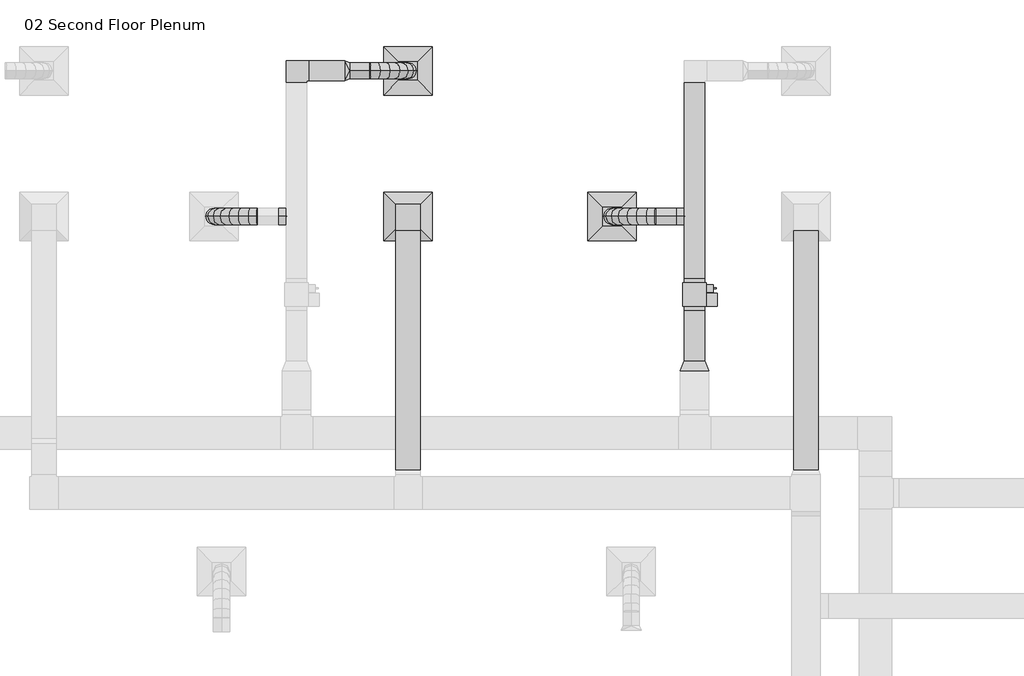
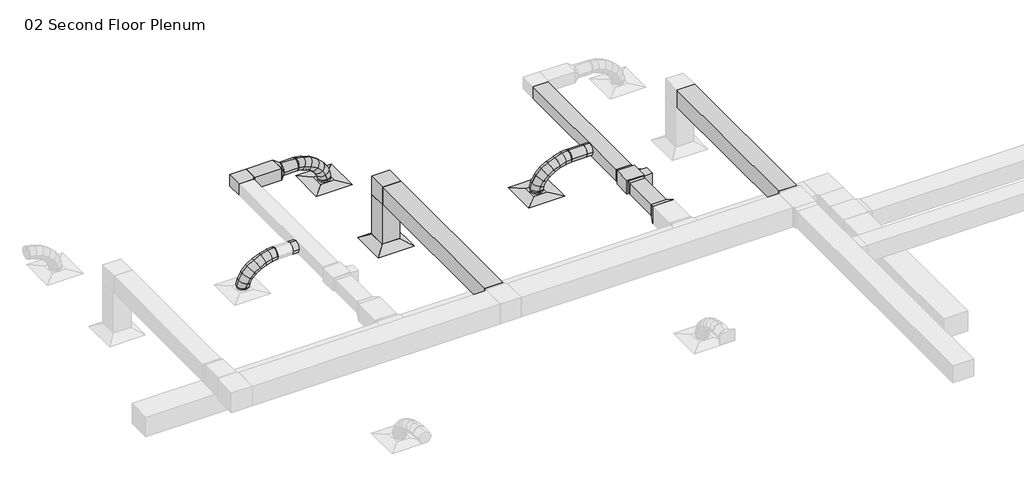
# One storey, part 10 of 12: 11 duct segments, 6 duct fittings, 3 air terminals, 1 proxy.
"""IFC4 building model written with IfcOpenShell, lengths in millimetres."""

from ifc_helpers import new_model, si_unit, point, frame, frame_2d, origin, place, context, project, spatial, polyline, circle_curve, ellipse_curve, trimmed, segment, composite_curve, outline, extrude, transform, mapped, element, save
from ifc_brep_helpers import plane_surface, cylinder_surface, advanced_brep
from components import return_diffuser_d30_returndiffuser_24x24_12x12_connection_ff543d60, supply_diffuser_rectangular_face_round_neck_d30_6390248a, bcn6785_vav_d30_vav1_8c327968, rectangular_elbow_mitered_standard_f09b78ec, rectangular_elbow_mitered_standard_4ff1c4e8, rectangular_transition_angle_45_degree_74625674, rectangular_to_round_transition_angle_45_degree_e9430680, round_takeoff_standard_1127d77f

model = new_model("IFC4")

# Units and contexts
model_context = context("Model", 3, world=origin())
ifc_project = project(units=[si_unit("LENGTHUNIT", "METRE", prefix="MILLI")], contexts=[model_context])

# Site, building, storey
site = spatial("IfcSite", under=ifc_project)
building = spatial("IfcBuilding", under=site)
storey = spatial("IfcBuildingStorey", under=building, Name="02 Second Floor Plenum", Elevation=3048.0)

# Air terminals
placement = place(None, origin())
return_diffuser_d30_returndiffuser_24x24_12x12_connection_shape = return_diffuser_d30_returndiffuser_24x24_12x12_connection_ff543d60(model_context)
element("IfcAirTerminal", 1, ObjectType="Return Diffuser : D30_ReturnDiffuser_24x24 12x12 Connection", at=placement, inside=storey, context=model_context, shape_type="MappedRepresentation", body=[
    mapped(return_diffuser_d30_returndiffuser_24x24_12x12_connection_shape, transform((5253.2457383, 10036.7671675, 3048.0), x_axis=(1.0, 0.0, 0.0), y_axis=(0.0, 1.0, 0.0), z_axis=(0.0, 0.0, 1.0))),
])
supply_diffuser_rectangular_face_round_neck_d30_shape = supply_diffuser_rectangular_face_round_neck_d30_6390248a(model_context)
element("IfcAirTerminal", 2, ObjectType="Supply Diffuser - Rectangular Face Round Neck : D30_SupplyDiffuser_24x24 8 Neck", at=placement, inside=storey, context=model_context, shape_type="MappedRepresentation", body=[
    mapped(supply_diffuser_rectangular_face_round_neck_d30_shape, transform((5253.2457383, 11865.5671675, 3048.0), x_axis=(1.0, 0.0, 0.0), y_axis=(0.0, 1.0, 0.0), z_axis=(0.0, 0.0, 1.0))),
])
element("IfcAirTerminal", 3, ObjectType="Supply Diffuser - Rectangular Face Round Neck : D30_SupplyDiffuser_24x24 8 Neck", at=placement, inside=storey, context=model_context, shape_type="MappedRepresentation", body=[
    mapped(supply_diffuser_rectangular_face_round_neck_d30_shape, transform((7813.8832383, 10036.7671675, 3048.0), x_axis=(1.0, 0.0, 0.0), y_axis=(0.0, 1.0, 0.0), z_axis=(0.0, 0.0, 1.0))),
])

# Proxy
bcn6785_vav_d30_vav1_shape = bcn6785_vav_d30_vav1_8c327968(model_context)
element("IfcBuildingElementProxy", 4, Name="BCN6785_VAV : D30_VAV1", ObjectType="BCN6785_VAV : D30_VAV1", at=placement, inside=storey, context=model_context, shape_type="MappedRepresentation", body=[
    mapped(bcn6785_vav_d30_vav1_shape, transform((8850.289134, 8909.6421675, 3384.55), x_axis=(0.0, 1.0, 0.0), y_axis=(-1.0, 0.0, 0.0), z_axis=(0.0, 0.0, 1.0))),
])

# Duct fittings
rectangular_elbow_mitered_standard_shape = rectangular_elbow_mitered_standard_f09b78ec(model_context)
element("IfcDuctFitting", 5, ObjectType="Rectangular Elbow - Mitered : Standard", at=placement, inside=storey, context=model_context, shape_type="MappedRepresentation", body=[
    mapped(rectangular_elbow_mitered_standard_shape, transform((3851.251634, 11865.5671675, 3505.2), x_axis=(-1.0, 0.0, 0.0), y_axis=(0.0, -1.0, 0.0), z_axis=(0.0, 0.0, 1.0))),
])
rectangular_elbow_mitered_standard_2_shape = rectangular_elbow_mitered_standard_4ff1c4e8(model_context)
element("IfcDuctFitting", 6, ObjectType="Rectangular Elbow - Mitered : Standard", at=placement, inside=storey, context=model_context, shape_type="MappedRepresentation", body=[
    mapped(rectangular_elbow_mitered_standard_2_shape, transform((5253.2457383, 10036.7671675, 4038.6), x_axis=(0.0, 0.0, 1.0), y_axis=(0.0, -1.0, 0.0), z_axis=(1.0, 0.0, 0.0))),
])
rectangular_transition_angle_45_degree_shape = rectangular_transition_angle_45_degree_74625674(model_context)
element("IfcDuctFitting", 7, ObjectType="Rectangular Transition - Angle : 45 Degree", at=placement, inside=storey, context=model_context, shape_type="MappedRepresentation", body=[
    mapped(rectangular_transition_angle_45_degree_shape, transform((8850.289134, 8223.8421675, 3505.2), x_axis=(0.0, -1.0, 0.0), y_axis=(1.0, 0.0, 0.0), z_axis=(0.0, 0.0, 1.0))),
])
rectangular_to_round_transition_angle_45_degree_shape = rectangular_to_round_transition_angle_45_degree_e9430680(model_context)
element("IfcDuctFitting", 8, ObjectType="Rectangular to Round Transition - Angle : 45 Degree", at=placement, inside=storey, context=model_context, shape_type="MappedRepresentation", body=[
    mapped(rectangular_to_round_transition_angle_45_degree_shape, transform((4460.851634, 11865.5671675, 3505.2), x_axis=(1.0, 0.0, 0.0), y_axis=(0.0, 1.0, 0.0), z_axis=(0.0, 0.0, 1.0))),
])
round_takeoff_standard_shape = round_takeoff_standard_1127d77f(model_context)
element("IfcDuctFitting", 9, ObjectType="Round Takeoff : Standard", at=placement, inside=storey, context=model_context, shape_type="MappedRepresentation", body=[
    mapped(round_takeoff_standard_shape, transform((3724.251634, 10036.7671675, 3505.2), x_axis=(-1.0, 0.0, 0.0), y_axis=(0.0, 1.0, 0.0), z_axis=(0.0, 0.0, -1.0))),
])
element("IfcDuctFitting", 10, ObjectType="Round Takeoff : Standard", at=placement, inside=storey, context=model_context, shape_type="MappedRepresentation", body=[
    mapped(round_takeoff_standard_shape, transform((8723.289134, 10036.7671675, 3505.2), x_axis=(-1.0, 0.0, 0.0), y_axis=(0.0, 1.0, 0.0), z_axis=(0.0, 0.0, -1.0))),
])

# Duct segments
element("IfcDuctSegment", 11, ObjectType="Flex - Round", at=placement, inside=storey, context=model_context, shape_type="AdvancedBrep", body=[
    advanced_brep(
    [(4765.651634, 11967.1671675, 3505.2), (4765.651634, 11865.5671675, 3403.6), (4765.651634, 11763.9671675, 3505.2), (4765.651634, 11865.5671675, 3606.8), (4779.6598765, 11967.1671675, 3505.2), (4771.6002398, 11865.5671675, 3403.6), (4779.6598765, 11763.9671675, 3505.2), (4787.7195132, 11865.5671675, 3606.8), (5253.2457383, 11967.1671675, 3101.975), (5354.8457383, 11865.5671675, 3101.975), (5253.2457383, 11763.9671675, 3101.975), (5151.6457383, 11865.5671675, 3101.975), (4875.001546, 11967.1671675, 3489.9778475), (4848.5341556, 11865.5671675, 3391.3168105), (4875.001546, 11763.9671675, 3489.9778475), (4901.4689365, 11865.5671675, 3588.6388846), (4985.801663, 11967.1671675, 3447.5285565), (4940.0682817, 11865.5671675, 3356.2486277), (4985.801663, 11763.9671675, 3447.5285565), (5031.5350443, 11865.5671675, 3538.8084854), (5088.5390628, 11967.1671675, 3382.6778766), (5025.4257256, 11865.5671675, 3302.3686553), (5088.5390628, 11763.9671675, 3382.6778766), (5151.6524001, 11865.5671675, 3462.987098), (5173.7008234, 11967.1671675, 3300.2515575), (5093.7242587, 11865.5671675, 3236.2639076), (5173.7008234, 11763.9671675, 3300.2515575), (5253.677388, 11865.5671675, 3364.2392074), (5231.7740226, 11967.1671675, 3205.0753487), (5137.2379514, 11865.5671675, 3164.9492848), (5231.7740226, 11763.9671675, 3205.0753487), (5326.3100938, 11865.5671675, 3245.2014127), (5253.2457383, 11967.1671675, 3122.6897958), (5151.6457383, 11865.5671675, 3109.6675594), (5253.2457383, 11763.9671675, 3122.6897958), (5354.8457383, 11865.5671675, 3135.7120321)],
    [
        (0, 1, circle_curve(frame((4765.651634, 11865.5671675, 3505.2), z_axis=(-1.0, 0.0, 0.0), x_axis=(0.0, 1.0, 0.0)), 101.6)),
        (1, 2, circle_curve(frame((4765.651634, 11865.5671675, 3505.2), z_axis=(-1.0, 0.0, 0.0), x_axis=(0.0, 1.0, 0.0)), 101.6)),
        (2, 3, circle_curve(frame((4765.651634, 11865.5671675, 3505.2), z_axis=(-1.0, 0.0, 0.0), x_axis=(0.0, 1.0, 0.0)), 101.6)),
        (3, 0, circle_curve(frame((4765.651634, 11865.5671675, 3505.2), z_axis=(-1.0, 0.0, 0.0), x_axis=(0.0, 1.0, 0.0)), 101.6)),
        (0, 4),
        (4, 5, ellipse_curve(frame((4779.6598765, 11865.5671675, 3505.2), z_axis=(-0.9968683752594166, 0.0, 0.07907871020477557), x_axis=(-0.07907871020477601, 0.0, -0.9968683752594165)), 101.9191726, 101.6)),
        (5, 1),
        (5, 6, ellipse_curve(frame((4779.6598765, 11865.5671675, 3505.2), z_axis=(-0.9968683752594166, 0.0, 0.07907871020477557), x_axis=(-0.07907871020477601, 0.0, -0.9968683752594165)), 101.9191726, 101.6)),
        (6, 2),
        (6, 7, ellipse_curve(frame((4779.6598765, 11865.5671675, 3505.2), z_axis=(-0.9968683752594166, 0.0, 0.07907871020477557), x_axis=(-0.07907871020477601, 0.0, -0.9968683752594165)), 101.9191726, 101.6)),
        (7, 3),
        (7, 4, ellipse_curve(frame((4779.6598765, 11865.5671675, 3505.2), z_axis=(-0.9968683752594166, 0.0, 0.07907871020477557), x_axis=(-0.07907871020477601, 0.0, -0.9968683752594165)), 101.9191726, 101.6)),
        (8, 9, circle_curve(frame((5253.2457383, 11865.5671675, 3101.975), z_axis=(0.0, 0.0, -1.0), x_axis=(0.0, 1.0, 0.0)), 101.6)),
        (9, 10, circle_curve(frame((5253.2457383, 11865.5671675, 3101.975), z_axis=(0.0, 0.0, -1.0), x_axis=(0.0, 1.0, 0.0)), 101.6)),
        (10, 11, circle_curve(frame((5253.2457383, 11865.5671675, 3101.975), z_axis=(0.0, 0.0, -1.0), x_axis=(0.0, 1.0, 0.0)), 101.6)),
        (11, 8, circle_curve(frame((5253.2457383, 11865.5671675, 3101.975), z_axis=(0.0, 0.0, -1.0), x_axis=(0.0, 1.0, 0.0)), 101.6)),
        (4, 12),
        (12, 13, ellipse_curve(frame((4875.001546, 11865.5671675, 3489.9778475), z_axis=(-0.9658493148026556, 0.0, 0.25910442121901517), x_axis=(-0.2591044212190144, 0.0, -0.9658493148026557)), 102.1495129, 101.6)),
        (13, 5),
        (13, 14, ellipse_curve(frame((4875.001546, 11865.5671675, 3489.9778475), z_axis=(-0.9658493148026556, 0.0, 0.25910442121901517), x_axis=(-0.2591044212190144, 0.0, -0.9658493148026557)), 102.1495129, 101.6)),
        (14, 6),
        (14, 15, ellipse_curve(frame((4875.001546, 11865.5671675, 3489.9778475), z_axis=(-0.9658493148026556, 0.0, 0.25910442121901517), x_axis=(-0.2591044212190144, 0.0, -0.9658493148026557)), 102.1495129, 101.6)),
        (15, 7),
        (15, 12, ellipse_curve(frame((4875.001546, 11865.5671675, 3489.9778475), z_axis=(-0.9658493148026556, 0.0, 0.25910442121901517), x_axis=(-0.2591044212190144, 0.0, -0.9658493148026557)), 102.1495129, 101.6)),
        (12, 16),
        (16, 17, ellipse_curve(frame((4985.801663, 11865.5671675, 3447.5285565), z_axis=(-0.8940608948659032, 0.0, 0.4479454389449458), x_axis=(-0.4479454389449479, 0.0, -0.8940608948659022)), 102.0958744, 101.6)),
        (17, 13),
        (17, 18, ellipse_curve(frame((4985.801663, 11865.5671675, 3447.5285565), z_axis=(-0.8940608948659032, 0.0, 0.4479454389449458), x_axis=(-0.4479454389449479, 0.0, -0.8940608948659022)), 102.0958744, 101.6)),
        (18, 14),
        (18, 19, ellipse_curve(frame((4985.801663, 11865.5671675, 3447.5285565), z_axis=(-0.8940608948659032, 0.0, 0.4479454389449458), x_axis=(-0.4479454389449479, 0.0, -0.8940608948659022)), 102.0958744, 101.6)),
        (19, 15),
        (19, 16, ellipse_curve(frame((4985.801663, 11865.5671675, 3447.5285565), z_axis=(-0.8940608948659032, 0.0, 0.4479454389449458), x_axis=(-0.4479454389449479, 0.0, -0.8940608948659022)), 102.0958744, 101.6)),
        (16, 20),
        (20, 21, ellipse_curve(frame((5088.5390628, 11865.5671675, 3382.6778766), z_axis=(-0.7862553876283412, 0.0, 0.6179016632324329), x_axis=(-0.6179016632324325, 0.0, -0.7862553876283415)), 102.141394, 101.6)),
        (21, 17),
        (21, 22, ellipse_curve(frame((5088.5390628, 11865.5671675, 3382.6778766), z_axis=(-0.7862553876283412, 0.0, 0.6179016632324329), x_axis=(-0.6179016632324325, 0.0, -0.7862553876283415)), 102.141394, 101.6)),
        (22, 18),
        (22, 23, ellipse_curve(frame((5088.5390628, 11865.5671675, 3382.6778766), z_axis=(-0.7862553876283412, 0.0, 0.6179016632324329), x_axis=(-0.6179016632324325, 0.0, -0.7862553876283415)), 102.141394, 101.6)),
        (23, 19),
        (23, 20, ellipse_curve(frame((5088.5390628, 11865.5671675, 3382.6778766), z_axis=(-0.7862553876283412, 0.0, 0.6179016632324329), x_axis=(-0.6179016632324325, 0.0, -0.7862553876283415)), 102.141394, 101.6)),
        (20, 24),
        (24, 25, ellipse_curve(frame((5173.7008234, 11865.5671675, 3300.2515575), z_axis=(-0.624733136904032, 0.0, 0.7808383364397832), x_axis=(-0.7808383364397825, 0.0, -0.6247331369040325)), 102.4239729, 101.6)),
        (25, 21),
        (25, 26, ellipse_curve(frame((5173.7008234, 11865.5671675, 3300.2515575), z_axis=(-0.624733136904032, 0.0, 0.7808383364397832), x_axis=(-0.7808383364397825, 0.0, -0.6247331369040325)), 102.4239729, 101.6)),
        (26, 22),
        (26, 27, ellipse_curve(frame((5173.7008234, 11865.5671675, 3300.2515575), z_axis=(-0.624733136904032, 0.0, 0.7808383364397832), x_axis=(-0.7808383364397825, 0.0, -0.6247331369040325)), 102.4239729, 101.6)),
        (27, 23),
        (27, 24, ellipse_curve(frame((5173.7008234, 11865.5671675, 3300.2515575), z_axis=(-0.624733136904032, 0.0, 0.7808383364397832), x_axis=(-0.7808383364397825, 0.0, -0.6247331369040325)), 102.4239729, 101.6)),
        (24, 28),
        (28, 29, ellipse_curve(frame((5231.7740226, 11865.5671675, 3205.0753487), z_axis=(-0.3907136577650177, 0.0, 0.9205122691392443), x_axis=(-0.9205122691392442, 0.0, -0.3907136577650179)), 102.6994146, 101.6)),
        (29, 25),
        (29, 30, ellipse_curve(frame((5231.7740226, 11865.5671675, 3205.0753487), z_axis=(-0.3907136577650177, 0.0, 0.9205122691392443), x_axis=(-0.9205122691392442, 0.0, -0.3907136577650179)), 102.6994146, 101.6)),
        (30, 26),
        (30, 31, ellipse_curve(frame((5231.7740226, 11865.5671675, 3205.0753487), z_axis=(-0.3907136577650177, 0.0, 0.9205122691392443), x_axis=(-0.9205122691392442, 0.0, -0.3907136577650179)), 102.6994146, 101.6)),
        (31, 27),
        (31, 28, ellipse_curve(frame((5231.7740226, 11865.5671675, 3205.0753487), z_axis=(-0.3907136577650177, 0.0, 0.9205122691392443), x_axis=(-0.9205122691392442, 0.0, -0.3907136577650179)), 102.6994146, 101.6)),
        (28, 32),
        (32, 33, ellipse_curve(frame((5253.2457383, 11865.5671675, 3122.6897958), z_axis=(-0.12713161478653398, 0.0, 0.9918858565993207), x_axis=(-0.9918858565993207, 0.0, -0.12713161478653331)), 102.431141, 101.6)),
        (33, 29),
        (33, 34, ellipse_curve(frame((5253.2457383, 11865.5671675, 3122.6897958), z_axis=(-0.12713161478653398, 0.0, 0.9918858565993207), x_axis=(-0.9918858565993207, 0.0, -0.12713161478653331)), 102.431141, 101.6)),
        (34, 30),
        (34, 35, ellipse_curve(frame((5253.2457383, 11865.5671675, 3122.6897958), z_axis=(-0.12713161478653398, 0.0, 0.9918858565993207), x_axis=(-0.9918858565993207, 0.0, -0.12713161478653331)), 102.431141, 101.6)),
        (35, 31),
        (35, 32, ellipse_curve(frame((5253.2457383, 11865.5671675, 3122.6897958), z_axis=(-0.12713161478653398, 0.0, 0.9918858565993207), x_axis=(-0.9918858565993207, 0.0, -0.12713161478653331)), 102.431141, 101.6)),
        (32, 8),
        (11, 33),
        (10, 34),
        (9, 35),
    ],
    [
        plane_surface(frame((4765.651634, 11865.5671675, 3403.6), z_axis=(-1.0, 0.0, 0.0), x_axis=(0.0, 1.0, 0.0))),
        cylinder_surface(frame((4765.651634, 11865.5671675, 3505.2), z_axis=(-1.0, 0.0, 0.0), x_axis=(0.0, 1.0, 0.0)), 101.6),
        plane_surface(frame((5253.2457383, 11763.9671675, 3101.975), z_axis=(0.0, 0.0, -1.0), x_axis=(-1.0, 0.0, 0.0))),
        cylinder_surface(frame((4779.6598765, 11865.5671675, 3505.2), z_axis=(-0.9874931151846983, 0.0, 0.15766213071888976), x_axis=(0.0, 1.0, 0.0)), 101.6),
        cylinder_surface(frame((4875.001546, 11865.5671675, 3489.9778475), z_axis=(-0.9338139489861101, 0.0, 0.35775900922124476), x_axis=(0.0, 1.0, 0.0)), 101.6),
        cylinder_surface(frame((4985.801663, 11865.5671675, 3447.5285565), z_axis=(-0.8456230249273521, 0.0, 0.5337805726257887), x_axis=(0.0, 1.0, 0.0)), 101.6),
        cylinder_surface(frame((5088.5390628, 11865.5671675, 3382.6778766), z_axis=(-0.718552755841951, 0.0, 0.695472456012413), x_axis=(0.0, 1.0, 0.0)), 101.6),
        cylinder_surface(frame((5173.7008234, 11865.5671675, 3300.2515575), z_axis=(-0.5208619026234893, 0.0, 0.8536409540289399), x_axis=(0.0, 1.0, 0.0)), 101.6),
        cylinder_surface(frame((5231.7740226, 11865.5671675, 3205.0753487), z_axis=(-0.2522001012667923, 0.0, 0.9676751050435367), x_axis=(0.0, 1.0, 0.0)), 101.6),
        cylinder_surface(frame((5253.2457383, 11865.5671675, 3122.6897958), z_axis=(0.0, 0.0, 1.0), x_axis=(0.0, 1.0, 0.0)), 101.6),
    ],
    [
        (0, [[1, 2, 3, 4]]),
        (1, [[-1, 5, 6, 7]]),
        (1, [[-2, -7, 8, 9]]),
        (1, [[-3, -9, 10, 11]]),
        (1, [[-4, -11, 12, -5]]),
        (2, [[13, 14, 15, 16]]),
        (3, [[-6, 17, 18, 19]]),
        (3, [[-8, -19, 20, 21]]),
        (3, [[-10, -21, 22, 23]]),
        (3, [[-12, -23, 24, -17]]),
        (4, [[-18, 25, 26, 27]]),
        (4, [[-20, -27, 28, 29]]),
        (4, [[-22, -29, 30, 31]]),
        (4, [[-24, -31, 32, -25]]),
        (5, [[-26, 33, 34, 35]]),
        (5, [[-28, -35, 36, 37]]),
        (5, [[-30, -37, 38, 39]]),
        (5, [[-32, -39, 40, -33]]),
        (6, [[-34, 41, 42, 43]]),
        (6, [[-36, -43, 44, 45]]),
        (6, [[-38, -45, 46, 47]]),
        (6, [[-40, -47, 48, -41]]),
        (7, [[-42, 49, 50, 51]]),
        (7, [[-44, -51, 52, 53]]),
        (7, [[-46, -53, 54, 55]]),
        (7, [[-48, -55, 56, -49]]),
        (8, [[-50, 57, 58, 59]]),
        (8, [[-52, -59, 60, 61]]),
        (8, [[-54, -61, 62, 63]]),
        (8, [[-56, -63, 64, -57]]),
        (9, [[-58, 65, -16, 66]]),
        (9, [[-60, -66, -15, 67]]),
        (9, [[-62, -67, -14, 68]]),
        (9, [[-64, -68, -13, -65]]),
    ],
),
])
element("IfcDuctSegment", 12, ObjectType="Flex - Round", at=placement, inside=storey, context=model_context, shape_type="AdvancedBrep", body=[
    advanced_brep(
    [(3368.651634, 9935.1671675, 3505.2), (3368.651634, 10036.7671675, 3403.6), (3368.651634, 10138.3671675, 3505.2), (3368.651634, 10036.7671675, 3606.8), (3358.449386, 9935.1671675, 3505.2), (3364.1249071, 10036.7671675, 3403.6), (3358.449386, 10138.3671675, 3505.2), (3352.7738649, 10036.7671675, 3606.8), (2814.8457383, 9935.1671675, 3101.975), (2713.2457383, 10036.7671675, 3101.975), (2814.8457383, 10138.3671675, 3101.975), (2916.4457383, 10036.7671675, 3101.975), (3266.0742113, 9935.1671675, 3494.847276), (3285.406616, 10036.7671675, 3394.7778382), (3266.0742113, 10138.3671675, 3494.847276), (3246.7418065, 10036.7671675, 3594.9167138), (3158.9979223, 9935.1671675, 3465.2048655), (3193.5702869, 10036.7671675, 3369.3543743), (3158.9979223, 10138.3671675, 3465.2048655), (3124.4255578, 10036.7671675, 3561.0553568), (3054.8145459, 9935.1671675, 3418.396411), (3103.8921848, 10036.7671675, 3329.0629813), (3054.8145459, 10138.3671675, 3418.396411), (3005.736907, 10036.7671675, 3507.7298408), (2960.9158606, 9935.1671675, 3356.5455549), (3025.0310858, 10036.7671675, 3277.1173499), (2960.9158606, 10138.3671675, 3356.5455549), (2896.8006354, 10036.7671675, 3435.9737598), (2884.6936451, 9935.1671675, 3281.7759394), (2965.1830756, 10036.7671675, 3218.4098894), (2884.6936451, 10138.3671675, 3281.7759394), (2804.2042146, 10036.7671675, 3345.1419893), (2833.5396781, 9935.1671675, 3196.211207), (2928.4333963, 10036.7671675, 3156.9390659), (2833.5396781, 10138.3671675, 3196.211207), (2738.64596, 10036.7671675, 3235.483348), (2814.8457383, 9935.1671675, 3121.7444887), (2916.4457383, 10036.7671675, 3109.1866092), (2814.8457383, 10138.3671675, 3121.7444887), (2713.2457383, 10036.7671675, 3134.3023681)],
    [
        (0, 1, circle_curve(frame((3368.651634, 10036.7671675, 3505.2), z_axis=(1.0, 0.0, 0.0), x_axis=(0.0, -1.0, 0.0)), 101.6)),
        (1, 2, circle_curve(frame((3368.651634, 10036.7671675, 3505.2), z_axis=(1.0, 0.0, 0.0), x_axis=(0.0, -1.0, 0.0)), 101.6)),
        (2, 3, circle_curve(frame((3368.651634, 10036.7671675, 3505.2), z_axis=(1.0, 0.0, 0.0), x_axis=(0.0, -1.0, 0.0)), 101.6)),
        (3, 0, circle_curve(frame((3368.651634, 10036.7671675, 3505.2), z_axis=(1.0, 0.0, 0.0), x_axis=(0.0, -1.0, 0.0)), 101.6)),
        (0, 4),
        (4, 5, ellipse_curve(frame((3358.449386, 10036.7671675, 3505.2), z_axis=(0.9984433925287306, 0.0, 0.055774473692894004), x_axis=(0.05577447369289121, 0.0, -0.9984433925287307)), 101.7583979, 101.6)),
        (5, 1),
        (5, 6, ellipse_curve(frame((3358.449386, 10036.7671675, 3505.2), z_axis=(0.9984433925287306, 0.0, 0.055774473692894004), x_axis=(0.05577447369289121, 0.0, -0.9984433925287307)), 101.7583979, 101.6)),
        (6, 2),
        (6, 7, ellipse_curve(frame((3358.449386, 10036.7671675, 3505.2), z_axis=(0.9984433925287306, 0.0, 0.055774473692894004), x_axis=(0.05577447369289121, 0.0, -0.9984433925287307)), 101.7583979, 101.6)),
        (7, 3),
        (7, 4, ellipse_curve(frame((3358.449386, 10036.7671675, 3505.2), z_axis=(0.9984433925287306, 0.0, 0.055774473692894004), x_axis=(0.05577447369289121, 0.0, -0.9984433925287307)), 101.7583979, 101.6)),
        (8, 9, circle_curve(frame((2814.8457383, 10036.7671675, 3101.975), z_axis=(0.0, 0.0, -1.0), x_axis=(0.0, -1.0, 0.0)), 101.6)),
        (9, 10, circle_curve(frame((2814.8457383, 10036.7671675, 3101.975), z_axis=(0.0, 0.0, -1.0), x_axis=(0.0, -1.0, 0.0)), 101.6)),
        (10, 11, circle_curve(frame((2814.8457383, 10036.7671675, 3101.975), z_axis=(0.0, 0.0, -1.0), x_axis=(0.0, -1.0, 0.0)), 101.6)),
        (11, 8, circle_curve(frame((2814.8457383, 10036.7671675, 3101.975), z_axis=(0.0, 0.0, -1.0), x_axis=(0.0, -1.0, 0.0)), 101.6)),
        (4, 12),
        (12, 13, ellipse_curve(frame((3266.0742113, 10036.7671675, 3494.847276), z_axis=(0.9818454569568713, 0.0, 0.1896826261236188), x_axis=(0.1896826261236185, 0.0, -0.9818454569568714)), 101.9197442, 101.6)),
        (13, 5),
        (13, 14, ellipse_curve(frame((3266.0742113, 10036.7671675, 3494.847276), z_axis=(0.9818454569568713, 0.0, 0.1896826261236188), x_axis=(0.1896826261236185, 0.0, -0.9818454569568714)), 101.9197442, 101.6)),
        (14, 6),
        (14, 15, ellipse_curve(frame((3266.0742113, 10036.7671675, 3494.847276), z_axis=(0.9818454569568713, 0.0, 0.1896826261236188), x_axis=(0.1896826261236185, 0.0, -0.9818454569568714)), 101.9197442, 101.6)),
        (15, 7),
        (15, 12, ellipse_curve(frame((3266.0742113, 10036.7671675, 3494.847276), z_axis=(0.9818454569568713, 0.0, 0.1896826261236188), x_axis=(0.1896826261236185, 0.0, -0.9818454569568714)), 101.9197442, 101.6)),
        (12, 16),
        (16, 17, ellipse_curve(frame((3158.9979223, 10036.7671675, 3465.2048655), z_axis=(0.9406802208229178, 0.0, 0.3392944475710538), x_axis=(0.3392944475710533, 0.0, -0.940680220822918)), 101.8948726, 101.6)),
        (17, 13),
        (17, 18, ellipse_curve(frame((3158.9979223, 10036.7671675, 3465.2048655), z_axis=(0.9406802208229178, 0.0, 0.3392944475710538), x_axis=(0.3392944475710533, 0.0, -0.940680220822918)), 101.8948726, 101.6)),
        (18, 14),
        (18, 19, ellipse_curve(frame((3158.9979223, 10036.7671675, 3465.2048655), z_axis=(0.9406802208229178, 0.0, 0.3392944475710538), x_axis=(0.3392944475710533, 0.0, -0.940680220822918)), 101.8948726, 101.6)),
        (19, 15),
        (19, 16, ellipse_curve(frame((3158.9979223, 10036.7671675, 3465.2048655), z_axis=(0.9406802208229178, 0.0, 0.3392944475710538), x_axis=(0.3392944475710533, 0.0, -0.940680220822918)), 101.8948726, 101.6)),
        (16, 20),
        (20, 21, ellipse_curve(frame((3054.8145459, 10036.7671675, 3418.396411), z_axis=(0.8764467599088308, 0.0, 0.4814987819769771), x_axis=(0.4814987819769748, 0.0, -0.8764467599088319)), 101.9268184, 101.6)),
        (21, 17),
        (21, 22, ellipse_curve(frame((3054.8145459, 10036.7671675, 3418.396411), z_axis=(0.8764467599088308, 0.0, 0.4814987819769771), x_axis=(0.4814987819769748, 0.0, -0.8764467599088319)), 101.9268184, 101.6)),
        (22, 18),
        (22, 23, ellipse_curve(frame((3054.8145459, 10036.7671675, 3418.396411), z_axis=(0.8764467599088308, 0.0, 0.4814987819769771), x_axis=(0.4814987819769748, 0.0, -0.8764467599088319)), 101.9268184, 101.6)),
        (23, 19),
        (23, 20, ellipse_curve(frame((3054.8145459, 10036.7671675, 3418.396411), z_axis=(0.8764467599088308, 0.0, 0.4814987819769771), x_axis=(0.4814987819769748, 0.0, -0.8764467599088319)), 101.9268184, 101.6)),
        (20, 24),
        (24, 25, ellipse_curve(frame((2960.9158606, 10036.7671675, 3356.5455549), z_axis=(0.7781246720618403, 0.0, 0.6281098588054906), x_axis=(0.6281098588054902, 0.0, -0.7781246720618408)), 102.0764509, 101.6)),
        (25, 21),
        (25, 26, ellipse_curve(frame((2960.9158606, 10036.7671675, 3356.5455549), z_axis=(0.7781246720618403, 0.0, 0.6281098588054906), x_axis=(0.6281098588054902, 0.0, -0.7781246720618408)), 102.0764509, 101.6)),
        (26, 22),
        (26, 27, ellipse_curve(frame((2960.9158606, 10036.7671675, 3356.5455549), z_axis=(0.7781246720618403, 0.0, 0.6281098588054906), x_axis=(0.6281098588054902, 0.0, -0.7781246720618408)), 102.0764509, 101.6)),
        (27, 23),
        (27, 24, ellipse_curve(frame((2960.9158606, 10036.7671675, 3356.5455549), z_axis=(0.7781246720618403, 0.0, 0.6281098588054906), x_axis=(0.6281098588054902, 0.0, -0.7781246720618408)), 102.0764509, 101.6)),
        (24, 28),
        (28, 29, ellipse_curve(frame((2884.6936451, 10036.7671675, 3281.7759394), z_axis=(0.6185718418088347, 0.0, 0.7857282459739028), x_axis=(0.7857282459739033, 0.0, -0.618571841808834)), 102.4392733, 101.6)),
        (29, 25),
        (29, 30, ellipse_curve(frame((2884.6936451, 10036.7671675, 3281.7759394), z_axis=(0.6185718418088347, 0.0, 0.7857282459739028), x_axis=(0.7857282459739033, 0.0, -0.618571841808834)), 102.4392733, 101.6)),
        (30, 26),
        (30, 31, ellipse_curve(frame((2884.6936451, 10036.7671675, 3281.7759394), z_axis=(0.6185718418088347, 0.0, 0.7857282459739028), x_axis=(0.7857282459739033, 0.0, -0.618571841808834)), 102.4392733, 101.6)),
        (31, 27),
        (31, 28, ellipse_curve(frame((2884.6936451, 10036.7671675, 3281.7759394), z_axis=(0.6185718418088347, 0.0, 0.7857282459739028), x_axis=(0.7857282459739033, 0.0, -0.618571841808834)), 102.4392733, 101.6)),
        (28, 32),
        (32, 33, ellipse_curve(frame((2833.5396781, 10036.7671675, 3196.211207), z_axis=(0.3823998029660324, 0.0, 0.9239969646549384), x_axis=(0.9239969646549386, 0.0, -0.3823998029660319)), 102.6991666, 101.6)),
        (33, 29),
        (33, 34, ellipse_curve(frame((2833.5396781, 10036.7671675, 3196.211207), z_axis=(0.3823998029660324, 0.0, 0.9239969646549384), x_axis=(0.9239969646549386, 0.0, -0.3823998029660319)), 102.6991666, 101.6)),
        (34, 30),
        (34, 35, ellipse_curve(frame((2833.5396781, 10036.7671675, 3196.211207), z_axis=(0.3823998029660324, 0.0, 0.9239969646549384), x_axis=(0.9239969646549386, 0.0, -0.3823998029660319)), 102.6991666, 101.6)),
        (35, 31),
        (35, 32, ellipse_curve(frame((2833.5396781, 10036.7671675, 3196.211207), z_axis=(0.3823998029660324, 0.0, 0.9239969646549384), x_axis=(0.9239969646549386, 0.0, -0.3823998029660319)), 102.6991666, 101.6)),
        (32, 36),
        (36, 37, ellipse_curve(frame((2814.8457383, 10036.7671675, 3121.7444887), z_axis=(0.12266771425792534, 0.0, 0.9924477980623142), x_axis=(0.9924477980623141, 0.0, -0.12266771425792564)), 102.3731426, 101.6)),
        (37, 33),
        (37, 38, ellipse_curve(frame((2814.8457383, 10036.7671675, 3121.7444887), z_axis=(0.12266771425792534, 0.0, 0.9924477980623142), x_axis=(0.9924477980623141, 0.0, -0.12266771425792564)), 102.3731426, 101.6)),
        (38, 34),
        (38, 39, ellipse_curve(frame((2814.8457383, 10036.7671675, 3121.7444887), z_axis=(0.12266771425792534, 0.0, 0.9924477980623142), x_axis=(0.9924477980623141, 0.0, -0.12266771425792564)), 102.3731426, 101.6)),
        (39, 35),
        (39, 36, ellipse_curve(frame((2814.8457383, 10036.7671675, 3121.7444887), z_axis=(0.12266771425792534, 0.0, 0.9924477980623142), x_axis=(0.9924477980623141, 0.0, -0.12266771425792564)), 102.3731426, 101.6)),
        (36, 8),
        (11, 37),
        (10, 38),
        (9, 39),
    ],
    [
        plane_surface(frame((3368.651634, 10036.7671675, 3403.6), z_axis=(1.0, 0.0, 0.0), x_axis=(0.0, -1.0, 0.0))),
        cylinder_surface(frame((3368.651634, 10036.7671675, 3505.2), z_axis=(1.0, 0.0, 0.0), x_axis=(0.0, -1.0, 0.0)), 101.6),
        plane_surface(frame((2814.8457383, 9935.1671675, 3101.975), z_axis=(0.0, 0.0, -1.0), x_axis=(-1.0, 0.0, 0.0))),
        cylinder_surface(frame((3358.449386, 10036.7671675, 3505.2), z_axis=(0.9937784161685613, 0.0, 0.11137530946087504), x_axis=(0.0, -1.0, 0.0)), 101.6),
        cylinder_surface(frame((3266.0742113, 10036.7671675, 3494.847276), z_axis=(0.9637519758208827, 0.0, 0.2667997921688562), x_axis=(0.0, -1.0, 0.0)), 101.6),
        cylinder_surface(frame((3158.9979223, 10036.7671675, 3465.2048655), z_axis=(0.9121640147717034, 0.0, 0.40982534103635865), x_axis=(0.0, -1.0, 0.0)), 101.6),
        cylinder_surface(frame((3054.8145459, 10036.7671675, 3418.396411), z_axis=(0.835109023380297, 0.0, 0.5500844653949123), x_axis=(0.0, -1.0, 0.0)), 101.6),
        cylinder_surface(frame((2960.9158606, 10036.7671675, 3356.5455549), z_axis=(0.7138763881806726, 0.0, 0.7002717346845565), x_axis=(0.0, -1.0, 0.0)), 101.6),
        cylinder_surface(frame((2884.6936451, 10036.7671675, 3281.7759394), z_axis=(0.513131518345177, 0.0, 0.8583099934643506), x_axis=(0.0, -1.0, 0.0)), 101.6),
        cylinder_surface(frame((2833.5396781, 10036.7671675, 3196.211207), z_axis=(0.24348260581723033, 0.0, 0.969905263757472), x_axis=(0.0, -1.0, 0.0)), 101.6),
        cylinder_surface(frame((2814.8457383, 10036.7671675, 3121.7444887), z_axis=(0.0, 0.0, 1.0), x_axis=(0.0, -1.0, 0.0)), 101.6),
    ],
    [
        (0, [[1, 2, 3, 4]]),
        (1, [[-1, 5, 6, 7]]),
        (1, [[-2, -7, 8, 9]]),
        (1, [[-3, -9, 10, 11]]),
        (1, [[-4, -11, 12, -5]]),
        (2, [[13, 14, 15, 16]]),
        (3, [[-6, 17, 18, 19]]),
        (3, [[-8, -19, 20, 21]]),
        (3, [[-10, -21, 22, 23]]),
        (3, [[-12, -23, 24, -17]]),
        (4, [[-18, 25, 26, 27]]),
        (4, [[-20, -27, 28, 29]]),
        (4, [[-22, -29, 30, 31]]),
        (4, [[-24, -31, 32, -25]]),
        (5, [[-26, 33, 34, 35]]),
        (5, [[-28, -35, 36, 37]]),
        (5, [[-30, -37, 38, 39]]),
        (5, [[-32, -39, 40, -33]]),
        (6, [[-34, 41, 42, 43]]),
        (6, [[-36, -43, 44, 45]]),
        (6, [[-38, -45, 46, 47]]),
        (6, [[-40, -47, 48, -41]]),
        (7, [[-42, 49, 50, 51]]),
        (7, [[-44, -51, 52, 53]]),
        (7, [[-46, -53, 54, 55]]),
        (7, [[-48, -55, 56, -49]]),
        (8, [[-50, 57, 58, 59]]),
        (8, [[-52, -59, 60, 61]]),
        (8, [[-54, -61, 62, 63]]),
        (8, [[-56, -63, 64, -57]]),
        (9, [[-58, 65, 66, 67]]),
        (9, [[-60, -67, 68, 69]]),
        (9, [[-62, -69, 70, 71]]),
        (9, [[-64, -71, 72, -65]]),
        (10, [[-66, 73, -16, 74]]),
        (10, [[-68, -74, -15, 75]]),
        (10, [[-70, -75, -14, 76]]),
        (10, [[-72, -76, -13, -73]]),
    ],
),
])
element("IfcDuctSegment", 13, ObjectType="Flex - Round", at=placement, inside=storey, context=model_context, shape_type="AdvancedBrep", body=[
    advanced_brep(
    [(8367.689134, 9935.1671675, 3505.2), (8367.689134, 10036.7671675, 3403.6), (8367.689134, 10138.3671675, 3505.2), (8367.689134, 10036.7671675, 3606.8), (8357.486886, 9935.1671675, 3505.2), (8363.1624071, 10036.7671675, 3403.6), (8357.486886, 10138.3671675, 3505.2), (8351.8113649, 10036.7671675, 3606.8), (7813.8832383, 9935.1671675, 3101.975), (7712.2832383, 10036.7671675, 3101.975), (7813.8832383, 10138.3671675, 3101.975), (7915.4832383, 10036.7671675, 3101.975), (8265.1117113, 9935.1671675, 3494.847276), (8284.444116, 10036.7671675, 3394.7778382), (8265.1117113, 10138.3671675, 3494.847276), (8245.7793065, 10036.7671675, 3594.9167138), (8158.0354223, 9935.1671675, 3465.2048655), (8192.6077869, 10036.7671675, 3369.3543743), (8158.0354223, 10138.3671675, 3465.2048655), (8123.4630578, 10036.7671675, 3561.0553568), (8053.8520459, 9935.1671675, 3418.396411), (8102.9296848, 10036.7671675, 3329.0629813), (8053.8520459, 10138.3671675, 3418.396411), (8004.774407, 10036.7671675, 3507.7298408), (7959.9533606, 9935.1671675, 3356.5455549), (8024.0685858, 10036.7671675, 3277.1173499), (7959.9533606, 10138.3671675, 3356.5455549), (7895.8381354, 10036.7671675, 3435.9737598), (7883.7311451, 9935.1671675, 3281.7759394), (7964.2205756, 10036.7671675, 3218.4098894), (7883.7311451, 10138.3671675, 3281.7759394), (7803.2417146, 10036.7671675, 3345.1419893), (7832.5771781, 9935.1671675, 3196.211207), (7927.4708963, 10036.7671675, 3156.9390659), (7832.5771781, 10138.3671675, 3196.211207), (7737.68346, 10036.7671675, 3235.483348), (7813.8832383, 9935.1671675, 3121.7444887), (7915.4832383, 10036.7671675, 3109.1866092), (7813.8832383, 10138.3671675, 3121.7444887), (7712.2832383, 10036.7671675, 3134.3023681)],
    [
        (0, 1, circle_curve(frame((8367.689134, 10036.7671675, 3505.2), z_axis=(1.0, 0.0, 0.0), x_axis=(0.0, -1.0, 0.0)), 101.6)),
        (1, 2, circle_curve(frame((8367.689134, 10036.7671675, 3505.2), z_axis=(1.0, 0.0, 0.0), x_axis=(0.0, -1.0, 0.0)), 101.6)),
        (2, 3, circle_curve(frame((8367.689134, 10036.7671675, 3505.2), z_axis=(1.0, 0.0, 0.0), x_axis=(0.0, -1.0, 0.0)), 101.6)),
        (3, 0, circle_curve(frame((8367.689134, 10036.7671675, 3505.2), z_axis=(1.0, 0.0, 0.0), x_axis=(0.0, -1.0, 0.0)), 101.6)),
        (0, 4),
        (4, 5, ellipse_curve(frame((8357.486886, 10036.7671675, 3505.2), z_axis=(0.9984433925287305, 0.0, 0.05577447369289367), x_axis=(0.05577447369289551, 0.0, -0.9984433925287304)), 101.7583979, 101.6)),
        (5, 1),
        (5, 6, ellipse_curve(frame((8357.486886, 10036.7671675, 3505.2), z_axis=(0.9984433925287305, 0.0, 0.05577447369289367), x_axis=(0.05577447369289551, 0.0, -0.9984433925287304)), 101.7583979, 101.6)),
        (6, 2),
        (6, 7, ellipse_curve(frame((8357.486886, 10036.7671675, 3505.2), z_axis=(0.9984433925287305, 0.0, 0.05577447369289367), x_axis=(0.05577447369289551, 0.0, -0.9984433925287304)), 101.7583979, 101.6)),
        (7, 3),
        (7, 4, ellipse_curve(frame((8357.486886, 10036.7671675, 3505.2), z_axis=(0.9984433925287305, 0.0, 0.05577447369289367), x_axis=(0.05577447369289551, 0.0, -0.9984433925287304)), 101.7583979, 101.6)),
        (8, 9, circle_curve(frame((7813.8832383, 10036.7671675, 3101.975), z_axis=(0.0, 0.0, -1.0), x_axis=(0.0, -1.0, 0.0)), 101.6)),
        (9, 10, circle_curve(frame((7813.8832383, 10036.7671675, 3101.975), z_axis=(0.0, 0.0, -1.0), x_axis=(0.0, -1.0, 0.0)), 101.6)),
        (10, 11, circle_curve(frame((7813.8832383, 10036.7671675, 3101.975), z_axis=(0.0, 0.0, -1.0), x_axis=(0.0, -1.0, 0.0)), 101.6)),
        (11, 8, circle_curve(frame((7813.8832383, 10036.7671675, 3101.975), z_axis=(0.0, 0.0, -1.0), x_axis=(0.0, -1.0, 0.0)), 101.6)),
        (4, 12),
        (12, 13, ellipse_curve(frame((8265.1117113, 10036.7671675, 3494.847276), z_axis=(0.9818454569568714, 0.0, 0.18968262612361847), x_axis=(0.18968262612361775, 0.0, -0.9818454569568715)), 101.9197442, 101.6)),
        (13, 5),
        (13, 14, ellipse_curve(frame((8265.1117113, 10036.7671675, 3494.847276), z_axis=(0.9818454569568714, 0.0, 0.18968262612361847), x_axis=(0.18968262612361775, 0.0, -0.9818454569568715)), 101.9197442, 101.6)),
        (14, 6),
        (14, 15, ellipse_curve(frame((8265.1117113, 10036.7671675, 3494.847276), z_axis=(0.9818454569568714, 0.0, 0.18968262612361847), x_axis=(0.18968262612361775, 0.0, -0.9818454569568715)), 101.9197442, 101.6)),
        (15, 7),
        (15, 12, ellipse_curve(frame((8265.1117113, 10036.7671675, 3494.847276), z_axis=(0.9818454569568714, 0.0, 0.18968262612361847), x_axis=(0.18968262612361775, 0.0, -0.9818454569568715)), 101.9197442, 101.6)),
        (12, 16),
        (16, 17, ellipse_curve(frame((8158.0354223, 10036.7671675, 3465.2048655), z_axis=(0.9406802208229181, 0.0, 0.3392944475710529), x_axis=(0.33929444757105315, 0.0, -0.940680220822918)), 101.8948726, 101.6)),
        (17, 13),
        (17, 18, ellipse_curve(frame((8158.0354223, 10036.7671675, 3465.2048655), z_axis=(0.9406802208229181, 0.0, 0.3392944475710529), x_axis=(0.33929444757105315, 0.0, -0.940680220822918)), 101.8948726, 101.6)),
        (18, 14),
        (18, 19, ellipse_curve(frame((8158.0354223, 10036.7671675, 3465.2048655), z_axis=(0.9406802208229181, 0.0, 0.3392944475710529), x_axis=(0.33929444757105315, 0.0, -0.940680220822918)), 101.8948726, 101.6)),
        (19, 15),
        (19, 16, ellipse_curve(frame((8158.0354223, 10036.7671675, 3465.2048655), z_axis=(0.9406802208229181, 0.0, 0.3392944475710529), x_axis=(0.33929444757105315, 0.0, -0.940680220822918)), 101.8948726, 101.6)),
        (16, 20),
        (20, 21, ellipse_curve(frame((8053.8520459, 10036.7671675, 3418.396411), z_axis=(0.8764467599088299, 0.0, 0.48149878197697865), x_axis=(0.4814987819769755, 0.0, -0.8764467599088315)), 101.9268184, 101.6)),
        (21, 17),
        (21, 22, ellipse_curve(frame((8053.8520459, 10036.7671675, 3418.396411), z_axis=(0.8764467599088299, 0.0, 0.48149878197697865), x_axis=(0.4814987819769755, 0.0, -0.8764467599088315)), 101.9268184, 101.6)),
        (22, 18),
        (22, 23, ellipse_curve(frame((8053.8520459, 10036.7671675, 3418.396411), z_axis=(0.8764467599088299, 0.0, 0.48149878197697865), x_axis=(0.4814987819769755, 0.0, -0.8764467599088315)), 101.9268184, 101.6)),
        (23, 19),
        (23, 20, ellipse_curve(frame((8053.8520459, 10036.7671675, 3418.396411), z_axis=(0.8764467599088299, 0.0, 0.48149878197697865), x_axis=(0.4814987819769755, 0.0, -0.8764467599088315)), 101.9268184, 101.6)),
        (20, 24),
        (24, 25, ellipse_curve(frame((7959.9533606, 10036.7671675, 3356.5455549), z_axis=(0.7781246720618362, 0.0, 0.6281098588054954), x_axis=(0.6281098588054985, 0.0, -0.778124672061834)), 102.0764509, 101.6)),
        (25, 21),
        (25, 26, ellipse_curve(frame((7959.9533606, 10036.7671675, 3356.5455549), z_axis=(0.7781246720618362, 0.0, 0.6281098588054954), x_axis=(0.6281098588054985, 0.0, -0.778124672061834)), 102.0764509, 101.6)),
        (26, 22),
        (26, 27, ellipse_curve(frame((7959.9533606, 10036.7671675, 3356.5455549), z_axis=(0.7781246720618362, 0.0, 0.6281098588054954), x_axis=(0.6281098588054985, 0.0, -0.778124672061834)), 102.0764509, 101.6)),
        (27, 23),
        (27, 24, ellipse_curve(frame((7959.9533606, 10036.7671675, 3356.5455549), z_axis=(0.7781246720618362, 0.0, 0.6281098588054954), x_axis=(0.6281098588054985, 0.0, -0.778124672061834)), 102.0764509, 101.6)),
        (24, 28),
        (28, 29, ellipse_curve(frame((7883.7311451, 10036.7671675, 3281.7759394), z_axis=(0.6185718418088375, 0.0, 0.7857282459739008), x_axis=(0.7857282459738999, 0.0, -0.6185718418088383)), 102.4392733, 101.6)),
        (29, 25),
        (29, 30, ellipse_curve(frame((7883.7311451, 10036.7671675, 3281.7759394), z_axis=(0.6185718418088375, 0.0, 0.7857282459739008), x_axis=(0.7857282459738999, 0.0, -0.6185718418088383)), 102.4392733, 101.6)),
        (30, 26),
        (30, 31, ellipse_curve(frame((7883.7311451, 10036.7671675, 3281.7759394), z_axis=(0.6185718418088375, 0.0, 0.7857282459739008), x_axis=(0.7857282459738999, 0.0, -0.6185718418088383)), 102.4392733, 101.6)),
        (31, 27),
        (31, 28, ellipse_curve(frame((7883.7311451, 10036.7671675, 3281.7759394), z_axis=(0.6185718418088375, 0.0, 0.7857282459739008), x_axis=(0.7857282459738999, 0.0, -0.6185718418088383)), 102.4392733, 101.6)),
        (28, 32),
        (32, 33, ellipse_curve(frame((7832.5771781, 10036.7671675, 3196.211207), z_axis=(0.3823998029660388, 0.0, 0.923996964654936), x_axis=(0.9239969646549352, 0.0, -0.38239980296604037)), 102.6991666, 101.6)),
        (33, 29),
        (33, 34, ellipse_curve(frame((7832.5771781, 10036.7671675, 3196.211207), z_axis=(0.3823998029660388, 0.0, 0.923996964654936), x_axis=(0.9239969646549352, 0.0, -0.38239980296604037)), 102.6991666, 101.6)),
        (34, 30),
        (34, 35, ellipse_curve(frame((7832.5771781, 10036.7671675, 3196.211207), z_axis=(0.3823998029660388, 0.0, 0.923996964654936), x_axis=(0.9239969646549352, 0.0, -0.38239980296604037)), 102.6991666, 101.6)),
        (35, 31),
        (35, 32, ellipse_curve(frame((7832.5771781, 10036.7671675, 3196.211207), z_axis=(0.3823998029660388, 0.0, 0.923996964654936), x_axis=(0.9239969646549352, 0.0, -0.38239980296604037)), 102.6991666, 101.6)),
        (32, 36),
        (36, 37, ellipse_curve(frame((7813.8832383, 10036.7671675, 3121.7444887), z_axis=(0.12266771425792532, 0.0, 0.9924477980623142), x_axis=(0.9924477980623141, 0.0, -0.12266771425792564)), 102.3731426, 101.6)),
        (37, 33),
        (37, 38, ellipse_curve(frame((7813.8832383, 10036.7671675, 3121.7444887), z_axis=(0.12266771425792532, 0.0, 0.9924477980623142), x_axis=(0.9924477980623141, 0.0, -0.12266771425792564)), 102.3731426, 101.6)),
        (38, 34),
        (38, 39, ellipse_curve(frame((7813.8832383, 10036.7671675, 3121.7444887), z_axis=(0.12266771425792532, 0.0, 0.9924477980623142), x_axis=(0.9924477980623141, 0.0, -0.12266771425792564)), 102.3731426, 101.6)),
        (39, 35),
        (39, 36, ellipse_curve(frame((7813.8832383, 10036.7671675, 3121.7444887), z_axis=(0.12266771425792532, 0.0, 0.9924477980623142), x_axis=(0.9924477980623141, 0.0, -0.12266771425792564)), 102.3731426, 101.6)),
        (36, 8),
        (11, 37),
        (10, 38),
        (9, 39),
    ],
    [
        plane_surface(frame((8367.689134, 10036.7671675, 3403.6), z_axis=(1.0, 0.0, 0.0), x_axis=(0.0, -1.0, 0.0))),
        cylinder_surface(frame((8367.689134, 10036.7671675, 3505.2), z_axis=(1.0, 0.0, 0.0), x_axis=(0.0, -1.0, 0.0)), 101.6),
        plane_surface(frame((7813.8832383, 9935.1671675, 3101.975), z_axis=(0.0, 0.0, -1.0), x_axis=(-1.0, 0.0, 0.0))),
        cylinder_surface(frame((8357.486886, 10036.7671675, 3505.2), z_axis=(0.9937784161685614, 0.0, 0.11137530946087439), x_axis=(0.0, -1.0, 0.0)), 101.6),
        cylinder_surface(frame((8265.1117113, 10036.7671675, 3494.847276), z_axis=(0.9637519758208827, 0.0, 0.2667997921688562), x_axis=(0.0, -1.0, 0.0)), 101.6),
        cylinder_surface(frame((8158.0354223, 10036.7671675, 3465.2048655), z_axis=(0.9121640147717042, 0.0, 0.409825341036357), x_axis=(0.0, -1.0, 0.0)), 101.6),
        cylinder_surface(frame((8053.8520459, 10036.7671675, 3418.396411), z_axis=(0.835109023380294, 0.0, 0.5500844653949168), x_axis=(0.0, -1.0, 0.0)), 101.6),
        cylinder_surface(frame((7959.9533606, 10036.7671675, 3356.5455549), z_axis=(0.7138763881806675, 0.0, 0.7002717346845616), x_axis=(0.0, -1.0, 0.0)), 101.6),
        cylinder_surface(frame((7883.7311451, 10036.7671675, 3281.7759394), z_axis=(0.5131315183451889, 0.0, 0.8583099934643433), x_axis=(0.0, -1.0, 0.0)), 101.6),
        cylinder_surface(frame((7832.5771781, 10036.7671675, 3196.211207), z_axis=(0.2434826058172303, 0.0, 0.969905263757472), x_axis=(0.0, -1.0, 0.0)), 101.6),
        cylinder_surface(frame((7813.8832383, 10036.7671675, 3121.7444887), z_axis=(0.0, 0.0, 1.0), x_axis=(0.0, -1.0, 0.0)), 101.6),
    ],
    [
        (0, [[1, 2, 3, 4]]),
        (1, [[-1, 5, 6, 7]]),
        (1, [[-2, -7, 8, 9]]),
        (1, [[-3, -9, 10, 11]]),
        (1, [[-4, -11, 12, -5]]),
        (2, [[13, 14, 15, 16]]),
        (3, [[-6, 17, 18, 19]]),
        (3, [[-8, -19, 20, 21]]),
        (3, [[-10, -21, 22, 23]]),
        (3, [[-12, -23, 24, -17]]),
        (4, [[-18, 25, 26, 27]]),
        (4, [[-20, -27, 28, 29]]),
        (4, [[-22, -29, 30, 31]]),
        (4, [[-24, -31, 32, -25]]),
        (5, [[-26, 33, 34, 35]]),
        (5, [[-28, -35, 36, 37]]),
        (5, [[-30, -37, 38, 39]]),
        (5, [[-32, -39, 40, -33]]),
        (6, [[-34, 41, 42, 43]]),
        (6, [[-36, -43, 44, 45]]),
        (6, [[-38, -45, 46, 47]]),
        (6, [[-40, -47, 48, -41]]),
        (7, [[-42, 49, 50, 51]]),
        (7, [[-44, -51, 52, 53]]),
        (7, [[-46, -53, 54, 55]]),
        (7, [[-48, -55, 56, -49]]),
        (8, [[-50, 57, 58, 59]]),
        (8, [[-52, -59, 60, 61]]),
        (8, [[-54, -61, 62, 63]]),
        (8, [[-56, -63, 64, -57]]),
        (9, [[-58, 65, 66, 67]]),
        (9, [[-60, -67, 68, 69]]),
        (9, [[-62, -69, 70, 71]]),
        (9, [[-64, -71, 72, -65]]),
        (10, [[-66, 73, -16, 74]]),
        (10, [[-68, -74, -15, 75]]),
        (10, [[-70, -75, -14, 76]]),
        (10, [[-72, -76, -13, -73]]),
    ],
),
])
element("IfcDuctSegment", 14, ObjectType="Mitered Elbows / Tees", at=placement, inside=storey, context=model_context, shape_type="SweptSolid", body=[
    extrude(outline(polyline([(4003.651634, 11738.5671675), (4003.651634, 11992.5671675), (4460.851634, 11992.5671675), (4460.851634, 11738.5671675), (4003.651634, 11738.5671675)])), frame((0.0, 0.0, 3403.6), z_axis=(0.0, 0.0, 1.0), x_axis=(1.0, 0.0, 0.0)), (0.0, 0.0, 1.0), 203.2),
])
element("IfcDuctSegment", 15, ObjectType="Mitered Elbows / Tees", at=placement, inside=storey, context=model_context, shape_type="SweptSolid", body=[
    extrude(outline(polyline([(8723.289134, 11713.1671675), (8977.289134, 11713.1671675), (8977.289134, 9252.5421675), (8723.289134, 9252.5421675), (8723.289134, 11713.1671675)])), frame((0.0, 0.0, 3403.6), z_axis=(0.0, 0.0, 1.0), x_axis=(1.0, 0.0, 0.0)), (0.0, 0.0, 1.0), 203.2),
])
element("IfcDuctSegment", 16, ObjectType="Mitered Elbows / Tees", at=placement, inside=storey, context=model_context, shape_type="SweptSolid", body=[
    extrude(outline(polyline([(8723.289134, 8858.8421675), (8977.289134, 8858.8421675), (8977.289134, 8223.8421675), (8723.289134, 8223.8421675), (8723.289134, 8858.8421675)])), frame((0.0, 0.0, 3403.6), z_axis=(0.0, 0.0, 1.0), x_axis=(1.0, 0.0, 0.0)), (0.0, 0.0, 1.0), 203.2),
])
element("IfcDuctSegment", 17, ObjectType="Mitered Elbows / Tees", at=placement, inside=storey, context=model_context, shape_type="SweptSolid", body=[
    extrude(outline(polyline([(5405.6457383, 6852.431223), (5100.8457383, 6852.431223), (5100.8457383, 9858.9671675), (5405.6457383, 9858.9671675), (5405.6457383, 6852.431223)])), frame((0.0, 0.0, 3886.2), z_axis=(0.0, 0.0, 1.0), x_axis=(1.0, 0.0, 0.0)), (0.0, 0.0, 1.0), 304.8),
])
element("IfcDuctSegment", 18, ObjectType="Mitered Elbows / Tees", at=placement, inside=storey, context=model_context, shape_type="SweptSolid", body=[
    extrude(outline(polyline([(5100.8457383, 10189.1671675), (5405.6457383, 10189.1671675), (5405.6457383, 9884.3671675), (5100.8457383, 9884.3671675), (5100.8457383, 10189.1671675)])), frame((0.0, 0.0, 3149.6), z_axis=(0.0, 0.0, 1.0), x_axis=(1.0, 0.0, 0.0)), (0.0, 0.0, 1.0), 711.2),
])
element("IfcDuctSegment", 19, ObjectType="Mitered Elbows / Tees", at=placement, inside=storey, context=model_context, shape_type="SweptSolid", body=[
    extrude(outline(polyline([(10404.6832383, 6852.431223), (10099.8832383, 6852.431223), (10099.8832383, 9858.9671675), (10404.6832383, 9858.9671675), (10404.6832383, 6852.431223)])), frame((0.0, 0.0, 3886.2), z_axis=(0.0, 0.0, 1.0), x_axis=(1.0, 0.0, 0.0)), (0.0, 0.0, 1.0), 304.8),
])
element("IfcDuctSegment", 20, ObjectType="Taps", at=placement, inside=storey, context=model_context, shape_type="SweptSolid", body=[
    extrude(outline(composite_curve([segment(trimmed(circle_curve(frame_2d((11865.5671675, 3505.2)), 101.6), [point((11763.9671675, 3505.2))], [point((11865.5671675, 3606.8))], False, "CARTESIAN"), True, "CONTINUOUS"), segment(trimmed(circle_curve(frame_2d((11865.5671675, 3505.2)), 101.6), [point((11865.5671675, 3606.8))], [point((11967.1671675, 3505.2))], False, "CARTESIAN"), True, "CONTINUOUS"), segment(trimmed(circle_curve(frame_2d((11865.5671675, 3505.2)), 101.6), [point((11967.1671675, 3505.2))], [point((11865.5671675, 3403.6))], False, "CARTESIAN"), True, "CONTINUOUS"), segment(trimmed(circle_curve(frame_2d((11865.5671675, 3505.2)), 101.6), [point((11865.5671675, 3403.6))], [point((11763.9671675, 3505.2))], False, "CARTESIAN"), True, "CONTINUOUS")], self_intersect=False)), frame((4522.1726585, 0.0, 0.0), z_axis=(1.0, 0.0, 0.0), x_axis=(0.0, 1.0, 0.0)), (0.0, 0.0, 1.0), 243.4789755),
])
element("IfcDuctSegment", 21, ObjectType="Taps", at=placement, inside=storey, context=model_context, shape_type="SweptSolid", body=[
    extrude(outline(composite_curve([segment(trimmed(circle_curve(frame_2d((10036.7671675, 3505.2)), 101.6), [point((10138.3671675, 3505.2))], [point((10036.7671675, 3403.6))], False, "CARTESIAN"), True, "CONTINUOUS"), segment(trimmed(circle_curve(frame_2d((10036.7671675, 3505.2)), 101.6), [point((10036.7671675, 3403.6))], [point((9935.1671675, 3505.2))], False, "CARTESIAN"), True, "CONTINUOUS"), segment(trimmed(circle_curve(frame_2d((10036.7671675, 3505.2)), 101.6), [point((9935.1671675, 3505.2))], [point((10036.7671675, 3606.8))], False, "CARTESIAN"), True, "CONTINUOUS"), segment(trimmed(circle_curve(frame_2d((10036.7671675, 3505.2)), 101.6), [point((10036.7671675, 3606.8))], [point((10138.3671675, 3505.2))], False, "CARTESIAN"), True, "CONTINUOUS")], self_intersect=False)), frame((8367.689134, 0.0, 0.0), z_axis=(1.0, 0.0, 0.0), x_axis=(0.0, 1.0, 0.0)), (0.0, 0.0, 1.0), 254.0),
])

save(model, "model.ifc")
